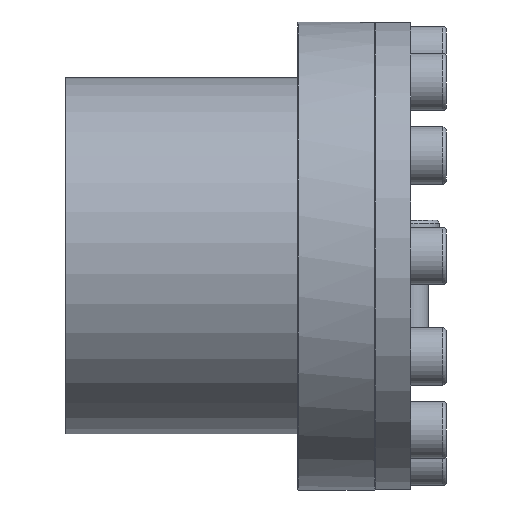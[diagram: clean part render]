
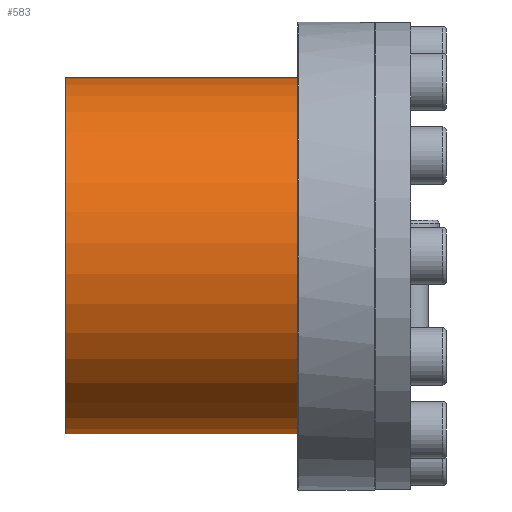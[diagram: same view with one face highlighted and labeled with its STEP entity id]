
A CAD part, left-side view. The second image highlights one B-rep face of the part: STEP entity #583.
In plain terms, the highlighted cylindrical face has radius 50 mm (diameter 100 mm), a partial arc.
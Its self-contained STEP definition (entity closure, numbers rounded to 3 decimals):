
#583 = ADVANCED_FACE( '', ( #1098 ), #1099, .T. );
#1098 = FACE_OUTER_BOUND( '', #1942, .T. );
#1099 = CYLINDRICAL_SURFACE( '', #1943, 50. );
#1942 = EDGE_LOOP( '', ( #2918, #2919, #2920, #2921 ) );
#1943 = AXIS2_PLACEMENT_3D( '', #2922, #2923, #2924 );
#2918 = ORIENTED_EDGE( '', *, *, #4784, .F. );
#2919 = ORIENTED_EDGE( '', *, *, #4828, .F. );
#2920 = ORIENTED_EDGE( '', *, *, #4806, .F. );
#2921 = ORIENTED_EDGE( '', *, *, #4831, .T. );
#2922 = CARTESIAN_POINT( '', ( 0., -60., 0. ) );
#2923 = DIRECTION( '', ( 0., 1., 0. ) );
#2924 = DIRECTION( '', ( 0., 0., -1. ) );
#4784 = EDGE_CURVE( '', #5331, #5333, #5334, .F. );
#4806 = EDGE_CURVE( '', #5366, #5368, #5369, .T. );
#4828 = EDGE_CURVE( '', #5368, #5331, #5406, .T. );
#4831 = EDGE_CURVE( '', #5366, #5333, #5409, .T. );
#5331 = VERTEX_POINT( '', #6131 );
#5333 = VERTEX_POINT( '', #6134 );
#5334 = LINE( '', #6135, #6136 );
#5366 = VERTEX_POINT( '', #6190 );
#5368 = VERTEX_POINT( '', #6193 );
#5369 = LINE( '', #6194, #6195 );
#5406 = CIRCLE( '', #6237, 50. );
#5409 = CIRCLE( '', #6242, 50. );
#6131 = CARTESIAN_POINT( '', ( 14.316, 31.5, 47.907 ) );
#6134 = CARTESIAN_POINT( '', ( 14.316, 96.5, 47.907 ) );
#6135 = CARTESIAN_POINT( '', ( 14.316, -60., 47.907 ) );
#6136 = VECTOR( '', #7577, 1000. );
#6190 = CARTESIAN_POINT( '', ( 11.556, 96.5, 48.646 ) );
#6193 = CARTESIAN_POINT( '', ( 11.556, 31.5, 48.646 ) );
#6194 = CARTESIAN_POINT( '', ( 11.556, -60., 48.646 ) );
#6195 = VECTOR( '', #7604, 1000. );
#6237 = AXIS2_PLACEMENT_3D( '', #7661, #7662, #7663 );
#6242 = AXIS2_PLACEMENT_3D( '', #7666, #7667, #7668 );
#7577 = DIRECTION( '', ( 0., -1., 0. ) );
#7604 = DIRECTION( '', ( 0., -1., 0. ) );
#7661 = CARTESIAN_POINT( '', ( 0., 31.5, 0. ) );
#7662 = DIRECTION( '', ( 0., -1., 0. ) );
#7663 = DIRECTION( '', ( 0., 0., -1. ) );
#7666 = CARTESIAN_POINT( '', ( 0., 96.5, 0. ) );
#7667 = DIRECTION( '', ( 0., -1., 0. ) );
#7668 = DIRECTION( '', ( 0., 0., -1. ) );
